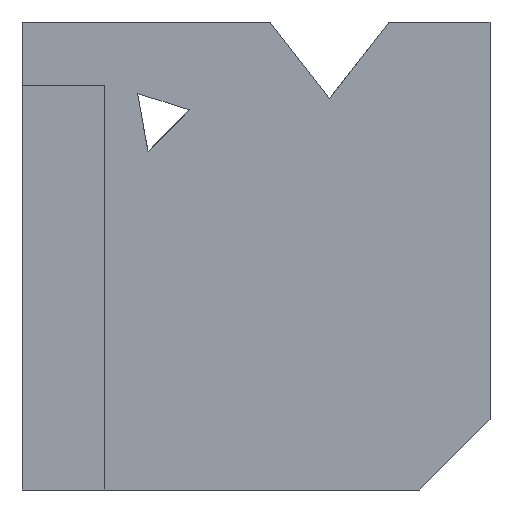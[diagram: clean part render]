
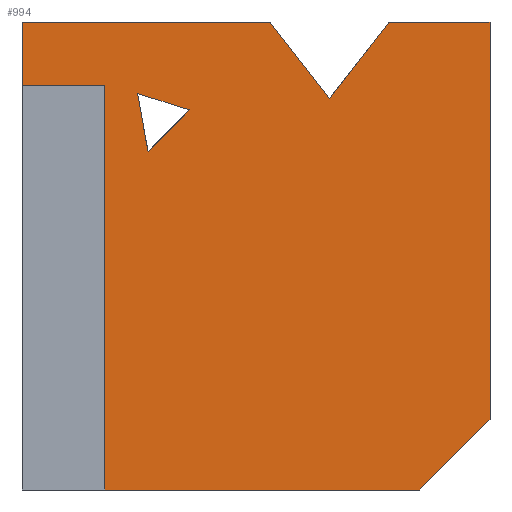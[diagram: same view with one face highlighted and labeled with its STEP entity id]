
A CAD part, front view. The second image highlights one B-rep face of the part: STEP entity #994.
In plain terms, the highlighted planar face has unit normal (0, -1, 0).
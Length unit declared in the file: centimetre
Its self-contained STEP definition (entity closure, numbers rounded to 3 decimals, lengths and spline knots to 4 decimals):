
#12 = DIRECTION ( 'NONE',  ( 0.707, 0., 0.707 ) ) ;
#47 = VERTEX_POINT ( 'NONE', #77 ) ;
#48 = CARTESIAN_POINT ( 'NONE',  ( 176.866, 0., 864.3182 ) ) ;
#53 = LINE ( 'NONE', #523, #492 ) ;
#64 = VECTOR ( 'NONE', #72, 100. ) ;
#72 = DIRECTION ( 'NONE',  ( 1., 0., 0. ) ) ;
#76 = EDGE_CURVE ( 'NONE', #330, #667, #631, .T. ) ;
#77 = CARTESIAN_POINT ( 'NONE',  ( 848.5661, 0., 0. ) ) ;
#80 = EDGE_CURVE ( 'NONE', #128, #550, #1014, .T. ) ;
#81 = VERTEX_POINT ( 'NONE', #606 ) ;
#86 = VECTOR ( 'NONE', #1127, 100. ) ;
#93 = LINE ( 'NONE', #756, #86 ) ;
#102 = VERTEX_POINT ( 'NONE', #1075 ) ;
#109 = ORIENTED_EDGE ( 'NONE', *, *, #744, .T. ) ;
#117 = DIRECTION ( 'NONE',  ( -0.178, 0., 0.984 ) ) ;
#128 = VERTEX_POINT ( 'NONE', #442 ) ;
#133 = CARTESIAN_POINT ( 'NONE',  ( 784.0683, 0., 1000. ) ) ;
#142 = VECTOR ( 'NONE', #1141, 100. ) ;
#148 = CARTESIAN_POINT ( 'NONE',  ( 0., 0., 1000. ) ) ;
#149 = ORIENTED_EDGE ( 'NONE', *, *, #817, .T. ) ;
#155 = CARTESIAN_POINT ( 'NONE',  ( 0., 0., 864.3182 ) ) ;
#158 = CARTESIAN_POINT ( 'NONE',  ( 357.9174, 0., 812.0817 ) ) ;
#174 = DIRECTION ( 'NONE',  ( 1., 0., 0. ) ) ;
#211 = CARTESIAN_POINT ( 'NONE',  ( 269.2714, 0., 723.4357 ) ) ;
#215 = VECTOR ( 'NONE', #12, 100. ) ;
#225 = CARTESIAN_POINT ( 'NONE',  ( 657.0317, 0., 836.8266 ) ) ;
#230 = LINE ( 'NONE', #977, #238 ) ;
#231 = LINE ( 'NONE', #312, #142 ) ;
#238 = VECTOR ( 'NONE', #117, 100. ) ;
#247 = FACE_OUTER_BOUND ( 'NONE', #356, .T. ) ;
#259 = DIRECTION ( 'NONE',  ( 0.953, 0., -0.302 ) ) ;
#264 = VECTOR ( 'NONE', #841, 100. ) ;
#265 = CARTESIAN_POINT ( 'NONE',  ( 0., 0., 0. ) ) ;
#312 = CARTESIAN_POINT ( 'NONE',  ( 0., 0., 864.3182 ) ) ;
#316 = ORIENTED_EDGE ( 'NONE', *, *, #877, .F. ) ;
#330 = VERTEX_POINT ( 'NONE', #398 ) ;
#338 = ORIENTED_EDGE ( 'NONE', *, *, #767, .T. ) ;
#350 = ORIENTED_EDGE ( 'NONE', *, *, #80, .F. ) ;
#356 = EDGE_LOOP ( 'NONE', ( #1126, #316, #900, #350, #109, #692, #338, #793, #479, #482 ) ) ;
#398 = CARTESIAN_POINT ( 'NONE',  ( 1000., 0., 1000. ) ) ;
#442 = CARTESIAN_POINT ( 'NONE',  ( 0., 0., 1000. ) ) ;
#469 = CARTESIAN_POINT ( 'NONE',  ( 0., 0., 1000. ) ) ;
#479 = ORIENTED_EDGE ( 'NONE', *, *, #645, .T. ) ;
#482 = ORIENTED_EDGE ( 'NONE', *, *, #76, .F. ) ;
#492 = VECTOR ( 'NONE', #718, 100. ) ;
#512 = EDGE_CURVE ( 'NONE', #850, #951, #231, .T. ) ;
#523 = CARTESIAN_POINT ( 'NONE',  ( 269.2714, 0., 723.4357 ) ) ;
#531 = CARTESIAN_POINT ( 'NONE',  ( 1000., 0., 1000. ) ) ;
#550 = VERTEX_POINT ( 'NONE', #598 ) ;
#569 = CARTESIAN_POINT ( 'NONE',  ( 1000., 0., 151.4339 ) ) ;
#575 = ORIENTED_EDGE ( 'NONE', *, *, #952, .T. ) ;
#598 = CARTESIAN_POINT ( 'NONE',  ( 529.9951, 0., 1000. ) ) ;
#605 = CARTESIAN_POINT ( 'NONE',  ( 246.8843, 0., 847.2239 ) ) ;
#606 = CARTESIAN_POINT ( 'NONE',  ( 176.866, 0., 0. ) ) ;
#614 = EDGE_CURVE ( 'NONE', #81, #47, #1002, .T. ) ;
#622 = LINE ( 'NONE', #699, #769 ) ;
#631 = LINE ( 'NONE', #531, #913 ) ;
#634 = DIRECTION ( 'NONE',  ( 0.614, 0., -0.789 ) ) ;
#645 = EDGE_CURVE ( 'NONE', #47, #667, #939, .T. ) ;
#667 = VERTEX_POINT ( 'NONE', #1023 ) ;
#692 = ORIENTED_EDGE ( 'NONE', *, *, #512, .F. ) ;
#699 = CARTESIAN_POINT ( 'NONE',  ( 0., 0., 1000. ) ) ;
#711 = DIRECTION ( 'NONE',  ( 0., 0., 1. ) ) ;
#718 = DIRECTION ( 'NONE',  ( -0.707, 0., -0.707 ) ) ;
#721 = CARTESIAN_POINT ( 'NONE',  ( 529.9951, 0., 1000. ) ) ;
#744 = EDGE_CURVE ( 'NONE', #128, #951, #1207, .T. ) ;
#756 = CARTESIAN_POINT ( 'NONE',  ( 176.866, 0., 864.3182 ) ) ;
#767 = EDGE_CURVE ( 'NONE', #850, #81, #93, .T. ) ;
#769 = VECTOR ( 'NONE', #895, 100. ) ;
#793 = ORIENTED_EDGE ( 'NONE', *, *, #614, .T. ) ;
#817 = EDGE_CURVE ( 'NONE', #824, #934, #230, .T. ) ;
#821 = LINE ( 'NONE', #721, #946 ) ;
#824 = VERTEX_POINT ( 'NONE', #211 ) ;
#841 = DIRECTION ( 'NONE',  ( 0., 0., -1. ) ) ;
#842 = VECTOR ( 'NONE', #174, 100. ) ;
#847 = ORIENTED_EDGE ( 'NONE', *, *, #1117, .T. ) ;
#850 = VERTEX_POINT ( 'NONE', #48 ) ;
#859 = LINE ( 'NONE', #225, #1057 ) ;
#877 = EDGE_CURVE ( 'NONE', #102, #1193, #859, .T. ) ;
#895 = DIRECTION ( 'NONE',  ( 1., 0., 0. ) ) ;
#900 = ORIENTED_EDGE ( 'NONE', *, *, #1087, .F. ) ;
#913 = VECTOR ( 'NONE', #914, 100. ) ;
#914 = DIRECTION ( 'NONE',  ( 0., 0., -1. ) ) ;
#925 = CARTESIAN_POINT ( 'NONE',  ( 0., 0., 1000. ) ) ;
#934 = VERTEX_POINT ( 'NONE', #605 ) ;
#939 = LINE ( 'NONE', #569, #215 ) ;
#946 = VECTOR ( 'NONE', #634, 100. ) ;
#951 = VERTEX_POINT ( 'NONE', #155 ) ;
#952 = EDGE_CURVE ( 'NONE', #1052, #824, #53, .T. ) ;
#967 = DIRECTION ( 'NONE',  ( 0.614, 0., 0.789 ) ) ;
#977 = CARTESIAN_POINT ( 'NONE',  ( 246.8843, 0., 847.2239 ) ) ;
#991 = EDGE_CURVE ( 'NONE', #1193, #330, #622, .T. ) ;
#994 = ADVANCED_FACE ( 'NONE', ( #1000, #247 ), #1070, .F. ) ;
#997 = LINE ( 'NONE', #158, #1182 ) ;
#1000 = FACE_BOUND ( 'NONE', #1084, .T. ) ;
#1002 = LINE ( 'NONE', #265, #64 ) ;
#1014 = LINE ( 'NONE', #925, #842 ) ;
#1023 = CARTESIAN_POINT ( 'NONE',  ( 1000., 0., 151.4339 ) ) ;
#1041 = AXIS2_PLACEMENT_3D ( 'NONE', #148, #1164, #711 ) ;
#1052 = VERTEX_POINT ( 'NONE', #1204 ) ;
#1057 = VECTOR ( 'NONE', #967, 100. ) ;
#1070 = PLANE ( 'NONE',  #1041 ) ;
#1075 = CARTESIAN_POINT ( 'NONE',  ( 657.0317, 0., 836.8266 ) ) ;
#1084 = EDGE_LOOP ( 'NONE', ( #575, #149, #847 ) ) ;
#1087 = EDGE_CURVE ( 'NONE', #550, #102, #821, .T. ) ;
#1117 = EDGE_CURVE ( 'NONE', #934, #1052, #997, .T. ) ;
#1126 = ORIENTED_EDGE ( 'NONE', *, *, #991, .F. ) ;
#1127 = DIRECTION ( 'NONE',  ( 0., 0., -1. ) ) ;
#1141 = DIRECTION ( 'NONE',  ( -1., 0., 0. ) ) ;
#1164 = DIRECTION ( 'NONE',  ( 0., 1., 0. ) ) ;
#1182 = VECTOR ( 'NONE', #259, 100. ) ;
#1193 = VERTEX_POINT ( 'NONE', #133 ) ;
#1204 = CARTESIAN_POINT ( 'NONE',  ( 357.9174, 0., 812.0817 ) ) ;
#1207 = LINE ( 'NONE', #469, #264 ) ;
